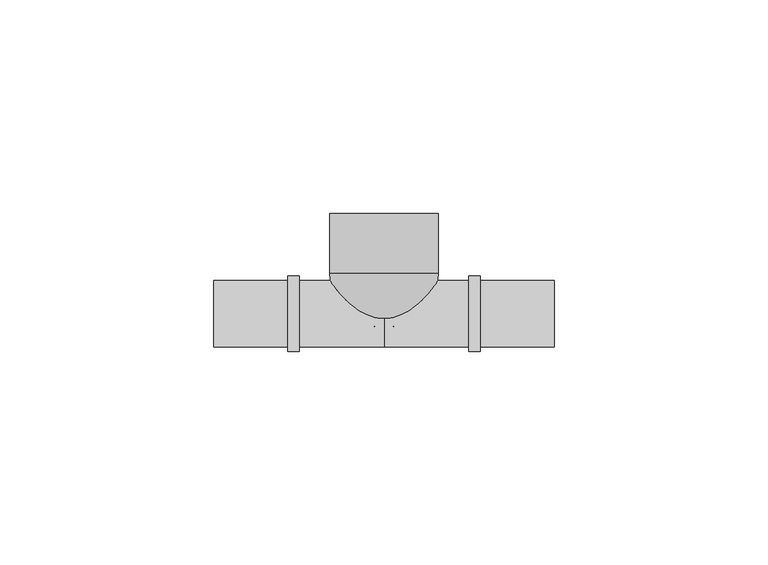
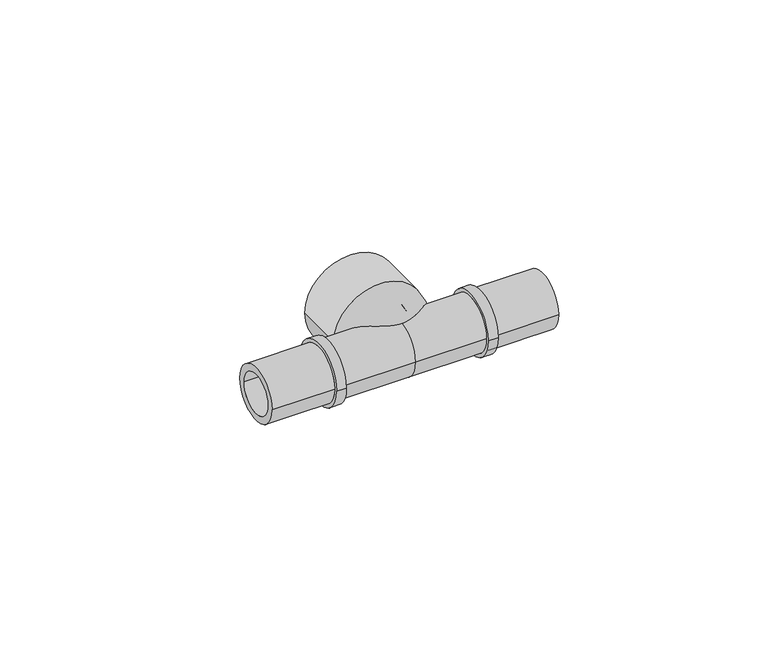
"""IFC4 building model written with IfcOpenShell, lengths in millimetres: pipe fitting geometry, FASTLOC_T-piece internal thread LX : FSL T thread LX PL."""

from ifc_helpers import new_model, si_unit, point, frame, origin, place, context, project, spatial, polyline, circle_curve, ellipse_curve, trimmed, source, transform, mapped, element, save
from ifc_brep_helpers import plane_surface, cylinder_surface, revolved_surface, advanced_brep


def pipe_fitting_81e095b9(model_context):
    return source(origin(), model_context, "Body", "AdvancedBrep", [
        advanced_brep(
        [(0.5, -3.3401923, 0.0), (-0.5, -3.3401923, 0.0), (-12.75, 9.4, 0.0), (12.75, 9.4, 0.0), (0.5, 1.9166852, 0.0), (-0.5, 1.9166852, 0.0), (7.5, 9.4, 0.0), (-7.5, 9.4, 0.0), (7.5, 23.5, 0.0), (-7.5, 23.5, 0.0), (-12.75, 23.5, 0.0), (12.75, 23.5, 0.0)],
        [
            (0, 1, circle_curve(frame((0.0, -3.3401923, 0.0), z_axis=(0.0, 1.0, 0.0), x_axis=(-1.0, 0.0, 0.0)), 0.5)),
            (1, 2, circle_curve(frame((0.0, 9.4, 0.0), z_axis=(0.0, 0.0, -1.0), x_axis=(0.0, 1.0, 0.0)), 12.75)),
            (2, 3, circle_curve(frame((0.0, 9.4, 0.0), z_axis=(0.0, -1.0, 0.0), x_axis=(-1.0, 0.0, 0.0)), 12.75)),
            (3, 0, circle_curve(frame((0.0, 9.4, 0.0), z_axis=(0.0, 0.0, -1.0), x_axis=(0.0, 1.0, 0.0)), 12.75)),
            (4, 5, circle_curve(frame((0.0, 1.9166852, 0.0), z_axis=(0.0, 1.0, 0.0), x_axis=(-1.0, 0.0, 0.0)), 0.5)),
            (5, 1),
            (0, 4),
            (6, 7, circle_curve(frame((0.0, 9.4, 0.0), z_axis=(0.0, 1.0, 0.0), x_axis=(-1.0, 0.0, 0.0)), 7.5)),
            (7, 5, circle_curve(frame((0.0, 9.4, 0.0), z_axis=(0.0, 0.0, 1.0), x_axis=(0.0, 1.0, 0.0)), 7.5)),
            (4, 6, circle_curve(frame((0.0, 9.4, 0.0), z_axis=(0.0, 0.0, 1.0), x_axis=(0.0, 1.0, 0.0)), 7.5)),
            (8, 9, circle_curve(frame((0.0, 23.5, 0.0), z_axis=(0.0, 1.0, 0.0), x_axis=(-1.0, 0.0, 0.0)), 7.5)),
            (9, 7),
            (6, 8),
            (2, 10),
            (10, 11, circle_curve(frame((0.0, 23.5, 0.0), z_axis=(0.0, -1.0, 0.0), x_axis=(-1.0, 0.0, 0.0)), 12.75)),
            (11, 3),
            (1, 0, circle_curve(frame((0.0, -3.3401923, 0.0), z_axis=(0.0, 1.0, 0.0), x_axis=(1.0, 0.0, 0.0)), 0.5)),
            (3, 2, circle_curve(frame((0.0, 9.4, 0.0), z_axis=(0.0, -1.0, 0.0), x_axis=(1.0, 0.0, 0.0)), 12.75)),
            (5, 4, circle_curve(frame((0.0, 1.9166852, 0.0), z_axis=(0.0, 1.0, 0.0), x_axis=(1.0, 0.0, 0.0)), 0.5)),
            (7, 6, circle_curve(frame((0.0, 9.4, 0.0), z_axis=(0.0, 1.0, 0.0), x_axis=(1.0, 0.0, 0.0)), 7.5)),
            (9, 8, circle_curve(frame((0.0, 23.5, 0.0), z_axis=(0.0, 1.0, 0.0), x_axis=(1.0, 0.0, 0.0)), 7.5)),
            (10, 11, circle_curve(frame((0.0, 23.5, 0.0), z_axis=(0.0, 1.0, 0.0), x_axis=(1.0, 0.0, 0.0)), 12.75)),
        ],
        [
            revolved_surface(trimmed(ellipse_curve(frame((0.0, 9.4, 0.0), z_axis=(0.0, 0.0, 1.0), x_axis=(0.0, 1.0, 0.0)), 12.75, 12.75), [point((-12.75, 9.4, 0.0))], [point((-0.5, -3.3401923, 0.0))], True, "CARTESIAN"), (0.0, 0.0, 0.0), (0.0, -1.0, 0.0)),
            revolved_surface(polyline([(-0.5, -3.3401923, 0.0), (-0.5, 1.9166852, 0.0)]), (0.0, 0.0, 0.0), (0.0, -1.0, 0.0)),
            revolved_surface(trimmed(ellipse_curve(frame((0.0, 9.4, 0.0), z_axis=(0.0, 0.0, -1.0), x_axis=(0.0, 1.0, 0.0)), 7.5, 7.5), [point((-0.5, 1.9166852, 0.0))], [point((-7.5, 9.4, 0.0))], True, "CARTESIAN"), (0.0, 0.0, 0.0), (0.0, -1.0, 0.0)),
            revolved_surface(polyline([(-7.5, 9.4, 0.0), (-7.5, 23.5, 0.0)]), (0.0, 0.0, 0.0), (0.0, -1.0, 0.0)),
            cylinder_surface(frame((0.0, 0.0, 0.0), z_axis=(0.0, -1.0, 0.0), x_axis=(-1.0, 0.0, 0.0)), 12.75),
            revolved_surface(trimmed(ellipse_curve(frame((0.0, 9.4, 0.0), z_axis=(0.0, 0.0, -1.0), x_axis=(0.0, 1.0, 0.0)), 12.75, 12.75), [point((12.75, 9.4, 0.0))], [point((0.5, -3.3401923, 0.0))], True, "CARTESIAN"), (0.0, 0.0, 0.0), (0.0, -1.0, 0.0)),
            revolved_surface(polyline([(0.5, -3.3401923, 0.0), (0.5, 1.9166852, 0.0)]), (0.0, 0.0, 0.0), (0.0, -1.0, 0.0)),
            revolved_surface(trimmed(ellipse_curve(frame((0.0, 9.4, 0.0), z_axis=(0.0, 0.0, 1.0), x_axis=(0.0, 1.0, 0.0)), 7.5, 7.5), [point((0.5, 1.9166852, 0.0))], [point((7.5, 9.4, 0.0))], True, "CARTESIAN"), (0.0, 0.0, 0.0), (0.0, -1.0, 0.0)),
            revolved_surface(polyline([(7.5, 9.4, 0.0), (7.5, 23.5, 0.0)]), (0.0, 0.0, 0.0), (0.0, -1.0, 0.0)),
            plane_surface(frame((0.0, 23.5, 0.0), z_axis=(0.0, 1.0, 0.0), x_axis=(1.0, 0.0, 0.0))),
            cylinder_surface(frame((0.0, 0.0, 0.0), z_axis=(0.0, -1.0, 0.0), x_axis=(1.0, 0.0, 0.0)), 12.75),
        ],
        [
            (0, [[1, 2, 3, 4]]),
            (1, [[5, 6, -1, 7]]),
            (2, [[8, 9, -5, 10]]),
            (3, [[11, 12, -8, 13]]),
            (4, [[-3, 14, 15, 16]]),
            (5, [[17, -4, 18, -2]]),
            (6, [[19, -7, -17, -6]]),
            (7, [[20, -10, -19, -9]]),
            (8, [[21, -13, -20, -12]]),
            (9, [[22, -15], [-21, -11]]),
            (10, [[-18, -16, -22, -14]]),
        ],
    ),
        advanced_brep(
        [(22.5, 8.8, 0.0), (22.5, -8.8, 0.0), (19.8, -8.8, 0.0), (19.8, 8.8, 0.0), (39.9, 7.75, 0.0), (39.9, -7.75, 0.0), (22.5, -7.75, 0.0), (22.5, 7.75, 0.0), (-39.9, 5.75, 0.0), (-39.9, -5.75, 0.0), (39.9, -5.75, 0.0), (39.9, 5.75, 0.0), (-22.5, 7.75, 0.0), (-22.5, -7.75, 0.0), (-39.9, -7.75, 0.0), (-39.9, 7.75, 0.0), (-19.8, 8.8, 0.0), (-19.8, -8.8, 0.0), (-22.5, -8.8, 0.0), (-22.5, 8.8, 0.0), (0.0, 7.75, 0.0), (0.0, -7.75, 0.0), (-19.8, -7.75, 0.0), (-19.8, 7.75, 0.0), (19.8, 7.75, 0.0), (19.8, -7.75, 0.0)],
        [
            (0, 1, circle_curve(frame((22.5, 0.0, 0.0), z_axis=(-1.0, 0.0, 0.0), x_axis=(0.0, -1.0, 0.0)), 8.8)),
            (1, 2),
            (2, 3, circle_curve(frame((19.8, 0.0, 0.0), z_axis=(1.0, 0.0, 0.0), x_axis=(0.0, -1.0, 0.0)), 8.8)),
            (3, 0),
            (4, 5, circle_curve(frame((39.9, 0.0, 0.0), z_axis=(-1.0, 0.0, 0.0), x_axis=(0.0, -1.0, 0.0)), 7.75)),
            (5, 6),
            (6, 7, circle_curve(frame((22.5, 0.0, 0.0), z_axis=(1.0, 0.0, 0.0), x_axis=(0.0, -1.0, 0.0)), 7.75)),
            (7, 4),
            (8, 9, circle_curve(frame((-39.9, 0.0, 0.0), z_axis=(-1.0, 0.0, 0.0), x_axis=(0.0, -1.0, 0.0)), 5.75)),
            (9, 10),
            (10, 11, circle_curve(frame((39.9, 0.0, 0.0), z_axis=(1.0, 0.0, 0.0), x_axis=(0.0, -1.0, 0.0)), 5.75)),
            (11, 8),
            (12, 13, circle_curve(frame((-22.5, 0.0, 0.0), z_axis=(-1.0, 0.0, 0.0), x_axis=(0.0, -1.0, 0.0)), 7.75)),
            (13, 14),
            (14, 15, circle_curve(frame((-39.9, 0.0, 0.0), z_axis=(1.0, 0.0, 0.0), x_axis=(0.0, -1.0, 0.0)), 7.75)),
            (15, 12),
            (16, 17, circle_curve(frame((-19.8, 0.0, 0.0), z_axis=(-1.0, 0.0, 0.0), x_axis=(0.0, -1.0, 0.0)), 8.8)),
            (17, 18),
            (18, 19, circle_curve(frame((-22.5, 0.0, 0.0), z_axis=(1.0, 0.0, 0.0), x_axis=(0.0, -1.0, 0.0)), 8.8)),
            (19, 16),
            (20, 21, circle_curve(frame((0.0, 0.0, 0.0), z_axis=(-1.0, 0.0, 0.0), x_axis=(0.0, -1.0, 0.0)), 7.75)),
            (21, 22),
            (22, 23, circle_curve(frame((-19.8, 0.0, 0.0), z_axis=(1.0, 0.0, 0.0), x_axis=(0.0, -1.0, 0.0)), 7.75)),
            (23, 20),
            (24, 25, circle_curve(frame((19.8, 0.0, 0.0), z_axis=(-1.0, 0.0, 0.0), x_axis=(0.0, -1.0, 0.0)), 7.75)),
            (25, 21),
            (20, 24),
            (1, 0, circle_curve(frame((22.5, 0.0, 0.0), z_axis=(-1.0, 0.0, 0.0), x_axis=(0.0, 1.0, 0.0)), 8.8)),
            (3, 2, circle_curve(frame((19.8, 0.0, 0.0), z_axis=(1.0, 0.0, 0.0), x_axis=(0.0, 1.0, 0.0)), 8.8)),
            (6, 7, circle_curve(frame((22.5, 0.0, 0.0), z_axis=(-1.0, 0.0, 0.0), x_axis=(0.0, 1.0, 0.0)), 7.75)),
            (5, 4, circle_curve(frame((39.9, 0.0, 0.0), z_axis=(-1.0, 0.0, 0.0), x_axis=(0.0, 1.0, 0.0)), 7.75)),
            (10, 11, circle_curve(frame((39.9, 0.0, 0.0), z_axis=(-1.0, 0.0, 0.0), x_axis=(0.0, 1.0, 0.0)), 5.75)),
            (9, 8, circle_curve(frame((-39.9, 0.0, 0.0), z_axis=(-1.0, 0.0, 0.0), x_axis=(0.0, 1.0, 0.0)), 5.75)),
            (14, 15, circle_curve(frame((-39.9, 0.0, 0.0), z_axis=(-1.0, 0.0, 0.0), x_axis=(0.0, 1.0, 0.0)), 7.75)),
            (13, 12, circle_curve(frame((-22.5, 0.0, 0.0), z_axis=(-1.0, 0.0, 0.0), x_axis=(0.0, 1.0, 0.0)), 7.75)),
            (18, 19, circle_curve(frame((-22.5, 0.0, 0.0), z_axis=(-1.0, 0.0, 0.0), x_axis=(0.0, 1.0, 0.0)), 8.8)),
            (17, 16, circle_curve(frame((-19.8, 0.0, 0.0), z_axis=(-1.0, 0.0, 0.0), x_axis=(0.0, 1.0, 0.0)), 8.8)),
            (22, 23, circle_curve(frame((-19.8, 0.0, 0.0), z_axis=(-1.0, 0.0, 0.0), x_axis=(0.0, 1.0, 0.0)), 7.75)),
            (21, 20, circle_curve(frame((0.0, 0.0, 0.0), z_axis=(-1.0, 0.0, 0.0), x_axis=(0.0, 1.0, 0.0)), 7.75)),
            (25, 24, circle_curve(frame((19.8, 0.0, 0.0), z_axis=(-1.0, 0.0, 0.0), x_axis=(0.0, 1.0, 0.0)), 7.75)),
        ],
        [
            cylinder_surface(frame((0.0, 0.0, 0.0), z_axis=(1.0, 0.0, 0.0), x_axis=(0.0, -1.0, 0.0)), 8.8),
            cylinder_surface(frame((0.0, 0.0, 0.0), z_axis=(1.0, 0.0, 0.0), x_axis=(0.0, -1.0, 0.0)), 7.75),
            revolved_surface(polyline([(39.9, -5.75, 0.0), (-39.9, -5.75, 0.0)]), (0.0, 0.0, 0.0), (1.0, 0.0, 0.0)),
            cylinder_surface(frame((0.0, 0.0, 0.0), z_axis=(1.0, 0.0, 0.0), x_axis=(0.0, 1.0, 0.0)), 8.8),
            plane_surface(frame((22.5, 0.0, 0.0), z_axis=(1.0, 0.0, 0.0), x_axis=(0.0, 1.0, 0.0))),
            cylinder_surface(frame((0.0, 0.0, 0.0), z_axis=(1.0, 0.0, 0.0), x_axis=(0.0, 1.0, 0.0)), 7.75),
            plane_surface(frame((39.9, 0.0, 0.0), z_axis=(1.0, 0.0, 0.0), x_axis=(0.0, 1.0, 0.0))),
            revolved_surface(polyline([(39.9, 5.75, 0.0), (-39.9, 5.75, 0.0)]), (0.0, 0.0, 0.0), (1.0, 0.0, 0.0)),
            plane_surface(frame((-39.9, 0.0, 0.0), z_axis=(-1.0, 0.0, 0.0), x_axis=(0.0, 1.0, 0.0))),
            plane_surface(frame((-22.5, 0.0, 0.0), z_axis=(-1.0, 0.0, 0.0), x_axis=(0.0, 1.0, 0.0))),
            plane_surface(frame((-19.8, 0.0, 0.0), z_axis=(1.0, 0.0, 0.0), x_axis=(0.0, 1.0, 0.0))),
            plane_surface(frame((19.8, 0.0, 0.0), z_axis=(-1.0, 0.0, 0.0), x_axis=(0.0, 1.0, 0.0))),
        ],
        [
            (0, [[1, 2, 3, 4]]),
            (1, [[5, 6, 7, 8]]),
            (2, [[9, 10, 11, 12]]),
            (1, [[13, 14, 15, 16]]),
            (0, [[17, 18, 19, 20]]),
            (1, [[21, 22, 23, 24]]),
            (1, [[25, 26, -21, 27]]),
            (3, [[28, -4, 29, -2]]),
            (4, [[-28, -1], [30, -7]]),
            (5, [[31, -8, -30, -6]]),
            (6, [[-31, -5], [32, -11]]),
            (7, [[33, -12, -32, -10]]),
            (8, [[34, -15], [-33, -9]]),
            (5, [[35, -16, -34, -14]]),
            (9, [[36, -19], [-35, -13]]),
            (3, [[37, -20, -36, -18]]),
            (10, [[-37, -17], [38, -23]]),
            (5, [[39, -24, -38, -22]]),
            (5, [[40, -27, -39, -26]]),
            (11, [[-29, -3], [-40, -25]]),
        ],
    ),
    ])


if __name__ == "__main__":
    model = new_model("IFC4")
    model_context = context("Model", 3, world=origin())
    ifc_project = project(units=[si_unit("LENGTHUNIT", "METRE", prefix="MILLI")], contexts=[model_context])
    site = spatial("IfcSite", under=ifc_project)
    building = spatial("IfcBuilding", under=site)
    placement = place(None, origin())
    pipe_fitting_shape = pipe_fitting_81e095b9(model_context)
    element("IfcPipeFitting", 1, ObjectType="FASTLOC_T-piece internal thread LX : FSL T thread LX PL", at=placement, inside=building, context=model_context, shape_type="MappedRepresentation", body=[
        mapped(pipe_fitting_shape, transform((0.0, 0.0, 0.0), x_axis=(1.0, 0.0, 0.0), y_axis=(0.0, 1.0, 0.0), z_axis=(0.0, 0.0, 1.0))),
    ])
    save(model, "model.ifc")
